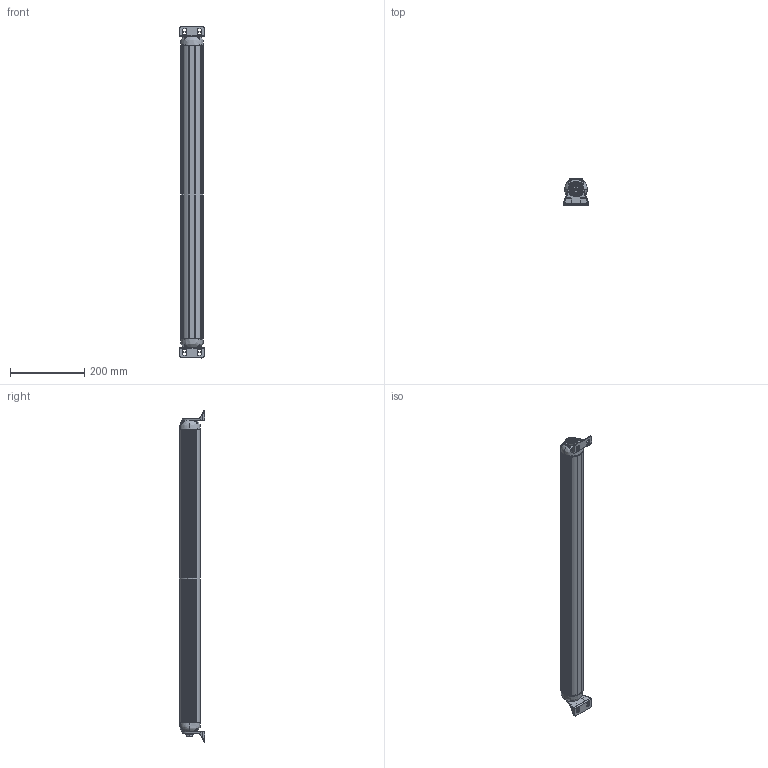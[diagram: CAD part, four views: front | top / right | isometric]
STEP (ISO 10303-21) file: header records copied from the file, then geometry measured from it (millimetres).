
FILE_DESCRIPTION (( 'STEP AP203' ), '1' );
FILE_NAME ('MWL-R800.STEP', '2025-01-09T21:41:57', ( '' ), ( '' ), 'SwSTEP 2.0', 'SolidWorks 2024', '' );
FILE_SCHEMA (( 'CONFIG_CONTROL_DESIGN' ));
Length unit declared in the file: inch
Products named in the file (1): MWL-R800
Bounding box: 65.66 x 70 x 896.98 mm (x, y, z)
Surface area: 325512.9 mm2 (no closed solid volume)
Topology: 0 solids, 13 shells, 740 faces, 2116 edges, 1414 vertices
Faces by surface type: cylinder 284, plane 250, bspline 140, cone 66
Full cylindrical faces by diameter (mm): 2.05 x8, 6.5 x1, 9.5 x1, 10.5 x4, 18.3 x2, 18.5 x2, 32 x2, 36 x2, 36.5 x2
Entity records: 55240 total; most frequent: CARTESIAN_POINT 39148, ORIENTED_EDGE 4014, DIRECTION 2189, EDGE_CURVE 2008, VERTEX_POINT 1375, B_SPLINE_CURVE_WITH_KNOTS 1125, EDGE_LOOP 851, AXIS2_PLACEMENT_3D 800
